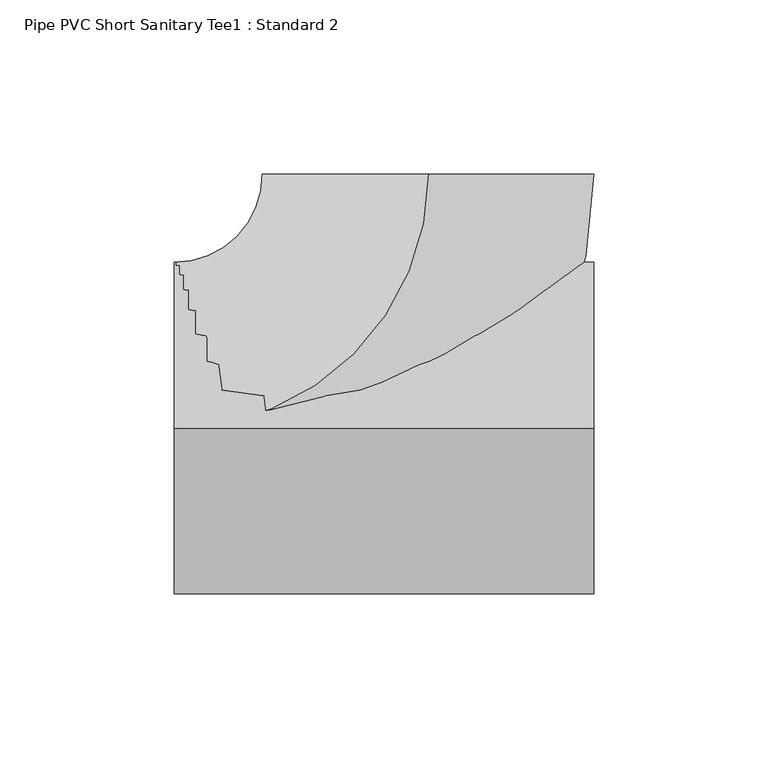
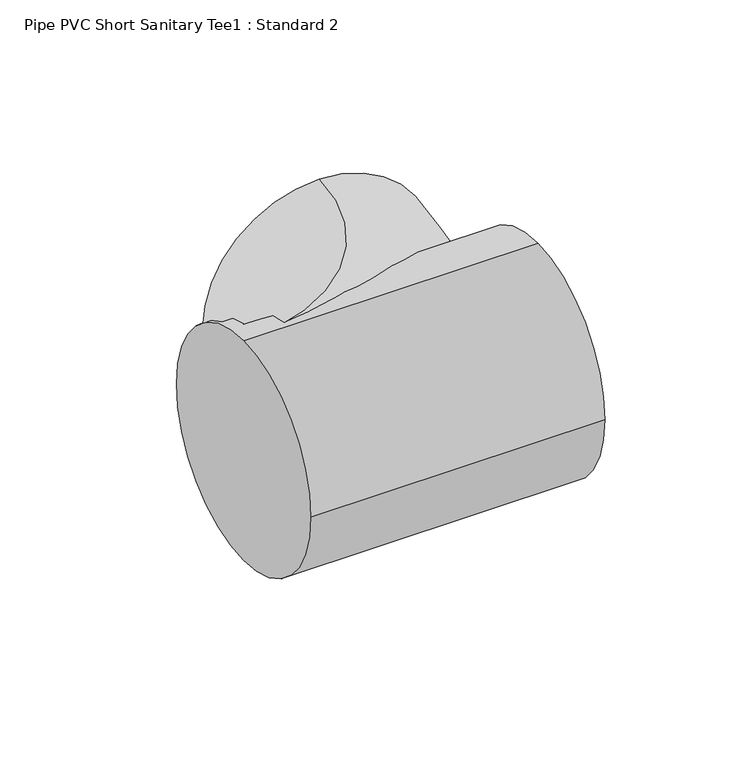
"""IFC4 building model written with IfcOpenShell, lengths in millimetres: pipe fitting geometry, Pipe PVC Short Sanitary Tee1 : Standard 2."""

import ifcopenshell
import ifcopenshell.guid

model = None  # the IFC model being written
_history = None  # IfcOwnerHistory: only IFC2X3 demands one
_inside = {}  # id of a spatial element -> (the spatial element, [elements in it])
_under = {}  # id of a project, library or spatial element -> (it, [spatial elements below it])
_declared = {}  # id of a project -> (the project, [libraries it declares])
_typed = {}  # id of a type object -> (the type object, [elements of that type])
_made_of = {}  # id of a material, layer set ... -> (it, [elements and type objects made of it])


def new_model(schema):
    """Start an empty IFC model of exactly this schema.

    Asked for "IFC4X3", IfcOpenShell would pick the latest addendum, in which some entities
    have other attributes; the version numbers below select the first issue.
    IFC2X3 requires an IfcOwnerHistory on every rooted entity: one is made here for all.
    """
    global model, _history
    if schema == "IFC4X3":
        model = ifcopenshell.file(schema_version=(4, 3, 0, 0))
    else:
        model = ifcopenshell.file(schema=schema)
    _inside.clear()
    _under.clear()
    _declared.clear()
    _typed.clear()
    _made_of.clear()
    _history = None
    if model.schema == "IFC2X3":
        org = make("IfcOrganization", Name="unknown")
        user = make(
            "IfcPersonAndOrganization",
            ThePerson=make("IfcPerson", FamilyName="unknown"),
            TheOrganization=org,
        )
        app = make(
            "IfcApplication",
            ApplicationDeveloper=org,
            Version="unknown",
            ApplicationFullName="unknown",
            ApplicationIdentifier="unknown",
        )
        _history = make(
            "IfcOwnerHistory",
            OwningUser=user,
            OwningApplication=app,
            ChangeAction="ADDED",
            CreationDate=0,
        )
    return model


def make(cls, **values):
    """One entity of the class cls with the attributes given. An attribute that is None is left unset."""
    return model.create_entity(
        cls, **{name: value for name, value in values.items() if value is not None}
    )


def rooted(cls, **values):
    """An entity with a GlobalId (a new one), such as an element, a storey or a relation."""
    return make(cls, GlobalId=ifcopenshell.guid.new(), OwnerHistory=_history, **values)


def si_unit(unit_type, name, prefix=None):
    """IfcSIUnit, for example si_unit("LENGTHUNIT", "METRE", prefix="MILLI")."""
    return make("IfcSIUnit", UnitType=unit_type, Prefix=prefix, Name=name)


def assignment(units):
    """IfcUnitAssignment: the units of a project."""
    return None if units is None else make("IfcUnitAssignment", Units=units)


def point(xyz):
    """IfcCartesianPoint."""
    return None if xyz is None else make("IfcCartesianPoint", Coordinates=xyz)


def direction(xyz):
    """IfcDirection."""
    return None if xyz is None else make("IfcDirection", DirectionRatios=xyz)


def frame(location, z_axis=None, x_axis=None):
    """IfcAxis2Placement3D, a coordinate frame: its origin and axes. An axis left out is left unset."""
    return make(
        "IfcAxis2Placement3D",
        Location=point(location),
        Axis=direction(z_axis),
        RefDirection=direction(x_axis),
    )


def frame_2d(location, x_axis=None):
    """IfcAxis2Placement2D, a coordinate frame in the plane: its origin and x axis."""
    return make(
        "IfcAxis2Placement2D", Location=point(location), RefDirection=direction(x_axis)
    )


def origin():
    """The frame at (0, 0, 0) with its axes left unset."""
    return frame((0.0, 0.0, 0.0))


def origin_2d():
    """The frame at (0, 0) in the plane with its x axis left unset."""
    return frame_2d((0.0, 0.0))


def place(relative_to, where):
    """IfcLocalPlacement: puts the frame where relative to a parent placement (None: the world)."""
    return make(
        "IfcLocalPlacement", PlacementRelTo=relative_to, RelativePlacement=where
    )


def context(
    kind, dimensions, precision=None, world=None, true_north=None, identifier=None
):
    """IfcGeometricRepresentationContext, for example the 3D "Model" context."""
    return make(
        "IfcGeometricRepresentationContext",
        ContextIdentifier=identifier,
        ContextType=kind,
        CoordinateSpaceDimension=dimensions,
        Precision=precision,
        WorldCoordinateSystem=world,
        TrueNorth=true_north,
    )


def project(units=None, contexts=None):
    """IfcProject with its units and contexts."""
    return rooted(
        "IfcProject",
        Name="project",
        RepresentationContexts=contexts,
        UnitsInContext=assignment(units),
    )


def spatial(cls, under=None, at=None, **own):
    """A site, building, storey or space (cls), placed at a placement, below another one or the project."""
    s = rooted(cls, ObjectPlacement=at, **own)
    if under is not None:
        _under.setdefault(under.id(), (under, []))[1].append(s)
    return s


def circle_curve(where, radius):
    """IfcCircle in the frame where."""
    return make("IfcCircle", Position=where, Radius=radius)


def ellipse_curve(where, semi_axis1, semi_axis2):
    """IfcEllipse in the frame where."""
    return make(
        "IfcEllipse", Position=where, SemiAxis1=semi_axis1, SemiAxis2=semi_axis2
    )


def trimmed(basis, trim1, trim2, sense, master):
    """IfcTrimmedCurve: the piece of a basis curve between two trims."""
    return make(
        "IfcTrimmedCurve",
        BasisCurve=basis,
        Trim1=trim1,
        Trim2=trim2,
        SenseAgreement=sense,
        MasterRepresentation=master,
    )


def segment(curve, same_sense, transition):
    """IfcCompositeCurveSegment."""
    return make(
        "IfcCompositeCurveSegment",
        Transition=transition,
        SameSense=same_sense,
        ParentCurve=curve,
    )


def composite_curve(segments, self_intersect=None):
    """IfcCompositeCurve: segments joined end to end."""
    return make("IfcCompositeCurve", Segments=segments, SelfIntersect=self_intersect)


def outline(outer, holes=None, kind="AREA"):
    """IfcArbitraryClosedProfileDef: a profile drawn as a closed curve; with holes, ...WithVoids."""
    if holes is None:
        return make("IfcArbitraryClosedProfileDef", ProfileType=kind, OuterCurve=outer)
    return make(
        "IfcArbitraryProfileDefWithVoids",
        ProfileType=kind,
        OuterCurve=outer,
        InnerCurves=holes,
    )


def extrude(swept, where, along, depth):
    """IfcExtrudedAreaSolid: the profile swept, set in the frame where, extruded along a direction by depth."""
    return make(
        "IfcExtrudedAreaSolid",
        SweptArea=swept,
        Position=where,
        ExtrudedDirection=direction(along),
        Depth=depth,
    )


def shape(context_of_items, identifier, shape_type, items):
    """IfcShapeRepresentation: the items that make up one representation, for example the "Body"."""
    return make(
        "IfcShapeRepresentation",
        ContextOfItems=context_of_items,
        RepresentationIdentifier=identifier,
        RepresentationType=shape_type,
        Items=items,
    )


def source(mapping_origin, context_of_items, identifier, shape_type, items):
    """IfcRepresentationMap: a shape defined once, which mapped items show again and again."""
    return make(
        "IfcRepresentationMap",
        MappingOrigin=mapping_origin,
        MappedRepresentation=shape(context_of_items, identifier, shape_type, items),
    )


def transform(
    local_origin,
    x_axis=None,
    y_axis=None,
    z_axis=None,
    scale=None,
    scale2=None,
    scale3=None,
    uniform=True,
):
    """IfcCartesianTransformationOperator3D, or its non-uniform kind. x_axis, y_axis, z_axis: its Axis1, 2, 3."""
    if uniform:
        return make(
            "IfcCartesianTransformationOperator3D",
            Axis1=direction(x_axis),
            Axis2=direction(y_axis),
            LocalOrigin=point(local_origin),
            Scale=scale,
            Axis3=direction(z_axis),
        )
    return make(
        "IfcCartesianTransformationOperator3DnonUniform",
        Axis1=direction(x_axis),
        Axis2=direction(y_axis),
        LocalOrigin=point(local_origin),
        Scale=scale,
        Axis3=direction(z_axis),
        Scale2=scale2,
        Scale3=scale3,
    )


def mapped(mapping_source, mapping_target):
    """IfcMappedItem: shows the shape of a source again, moved by a transform."""
    return make(
        "IfcMappedItem", MappingSource=mapping_source, MappingTarget=mapping_target
    )


def made_of(thing, what):
    """Note that an element or type object is made of a material, layer set ...; save() writes the relation."""
    if what is not None:
        _made_of.setdefault(what.id(), (what, []))[1].append(thing)
    return thing


def element(
    cls,
    number,
    at=None,
    inside=None,
    cuts=None,
    type_object=None,
    material=None,
    context=None,
    identifier="Body",
    shape_type=None,
    held_by="IfcProductDefinitionShape",
    body=None,
    shapes=None,
    **own,
):
    """One element of the class cls, such as IfcWall. Its Tag is "e" and its number.

    at: its placement. inside: the storey or other place that contains it. cuts: it is an
    opening in that element (IfcRelVoidsElement). A single representation is given by context,
    identifier, shape_type and body (its items); several are given by shapes. held_by: the class
    of the entity that holds the representations. save() writes the other relations.
    """
    e = rooted(cls, Tag="e%d" % number, ObjectPlacement=at, **own)
    if body is not None:
        shapes = [shape(context, identifier, shape_type, body)]
    if shapes is not None:
        e.Representation = make(held_by, Representations=shapes)
    if inside is not None:
        _inside.setdefault(inside.id(), (inside, []))[1].append(e)
    if cuts is not None:
        rooted(
            "IfcRelVoidsElement", RelatingBuildingElement=cuts, RelatedOpeningElement=e
        )
    if type_object is not None:
        _typed.setdefault(type_object.id(), (type_object, []))[1].append(e)
    return made_of(e, material)


def aggregate(whole, parts):
    """IfcRelAggregates: a whole, such as a stair, and the parts it consists of."""
    return rooted("IfcRelAggregates", RelatingObject=whole, RelatedObjects=parts)


def save(model, path):
    """Write the relations noted so far, then the file.

    IfcRelAggregates (storeys below a building ...), IfcRelContainedInSpatialStructure (elements
    in a storey), IfcRelDefinesByType, IfcRelAssociatesMaterial and IfcRelDeclares: one each for
    every whole, place, type object, material and project.
    """
    for whole, parts in _under.values():
        aggregate(whole, parts)
    for where, things in _inside.values():
        rooted(
            "IfcRelContainedInSpatialStructure",
            RelatedElements=things,
            RelatingStructure=where,
        )
    for kind, things in _typed.values():
        rooted("IfcRelDefinesByType", RelatedObjects=things, RelatingType=kind)
    for what, things in _made_of.values():
        rooted("IfcRelAssociatesMaterial", RelatedObjects=things, RelatingMaterial=what)
    for by, libraries in _declared.values():
        rooted("IfcRelDeclares", RelatingContext=by, RelatedDefinitions=libraries)
    model.write(path)


def plane_surface(at):
    """IfcPlane: the flat surface through the origin of the frame at, square to its z axis."""
    return make("IfcPlane", Position=at)


def revolved_surface(curve, axis_point, axis_direction):
    """IfcSurfaceOfRevolution: the curve turned about the line through axis_point along axis_direction."""
    return make(
        "IfcSurfaceOfRevolution",
        SweptCurve=make("IfcArbitraryOpenProfileDef", ProfileType="CURVE", Curve=curve),
        AxisPosition=make("IfcAxis1Placement", Location=point(axis_point), Axis=direction(axis_direction)),
    )


def advanced_brep(points, edges, surfaces, faces):
    """IfcAdvancedBrep: a solid bounded by faces that lie on surfaces and meet in shared edges.

    An edge is (start, end): straight between two places in points (the first is 0);
    or (start, end, curve); or (start, end, curve, False) where it runs against its curve.
    A face is (place in surfaces, loops), or (place, loops, False) where it looks against
    its surface's normal. A loop lists edges by number (the first is 1), with a minus sign
    where the edge is run from its end to its start. The first loop is the outer one.
    """
    corners = [point(p) for p in points]
    vertices = [make("IfcVertexPoint", VertexGeometry=c) for c in corners]
    made = []
    for start, end, *more in edges:
        made.append(
            make(
                "IfcEdgeCurve",
                EdgeStart=vertices[start],
                EdgeEnd=vertices[end],
                EdgeGeometry=more[0] if more else make("IfcPolyline", Points=[corners[start], corners[end]]),
                SameSense=more[1] if len(more) > 1 else True,
            )
        )
    hull = []
    for where, loops, *sense in faces:
        bounds = []
        for j, loop in enumerate(loops):
            ring = [make("IfcOrientedEdge", EdgeElement=made[abs(k) - 1], Orientation=k > 0) for k in loop]
            bounds.append(
                make(
                    "IfcFaceOuterBound" if j == 0 else "IfcFaceBound",
                    Bound=make("IfcEdgeLoop", EdgeList=ring),
                    Orientation=True,
                )
            )
        hull.append(make("IfcAdvancedFace", Bounds=bounds, FaceSurface=surfaces[where], SameSense=sense[0] if sense else True))
    return make("IfcAdvancedBrep", Outer=make("IfcClosedShell", CfsFaces=hull))


def pipe_pvc_short_sanitary_tee1_standard_2_93607447(model_context):
    return source(origin(), model_context, "Body", "SolidModel", [
        extrude(outline(composite_curve([segment(trimmed(circle_curve(origin_2d(), 47.625), [point((0.0, 47.625))], [point((47.625, 0.0))], False, "CARTESIAN"), True, "CONTINUOUS"), segment(trimmed(circle_curve(origin_2d(), 47.625), [point((47.625, 0.0))], [point((0.0, -47.625))], False, "CARTESIAN"), True, "CONTINUOUS"), segment(trimmed(circle_curve(origin_2d(), 47.625), [point((0.0, -47.625))], [point((-47.625, 0.0))], False, "CARTESIAN"), True, "CONTINUOUS"), segment(trimmed(circle_curve(origin_2d(), 47.625), [point((-47.625, 0.0))], [point((0.0, 47.625))], False, "CARTESIAN"), True, "CONTINUOUS")], self_intersect=False)), frame((-73.0092305, 0.0, 0.0), z_axis=(1.0, 0.0, 0.0), x_axis=(0.0, 1.0, 0.0)), (0.0, 0.0, 1.0), 120.6499983),
        advanced_brep(
        [(-73.0092305, 0.0, 47.625), (-73.0092305, 47.625, 0.0), (-73.0092305, 0.0, -47.625), (-73.0092305, -47.625, 0.0), (0.0157678, 73.0092288, 47.625), (47.6407667, 72.9989433, 0.0), (0.0157678, 73.0092288, -47.625), (-47.6092311, 73.0195144, 0.0)],
        [
            (0, 1, circle_curve(frame((-73.0092305, 0.0, 0.0), z_axis=(-1.0, 0.0, 0.0), x_axis=(0.0, 1.0, 0.0)), 47.625)),
            (1, 2, circle_curve(frame((-73.0092305, 0.0, 0.0), z_axis=(-1.0, 0.0, 0.0), x_axis=(0.0, 1.0, 0.0)), 47.625)),
            (2, 3, circle_curve(frame((-73.0092305, 0.0, 0.0), z_axis=(-1.0, 0.0, 0.0), x_axis=(0.0, 1.0, 0.0)), 47.625)),
            (3, 0, circle_curve(frame((-73.0092305, 0.0, 0.0), z_axis=(-1.0, 0.0, 0.0), x_axis=(0.0, 1.0, 0.0)), 47.625)),
            (4, 5, circle_curve(frame((0.0157678, 73.0092288, 0.0), z_axis=(0.00021596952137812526, 0.9999999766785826, 0.0), x_axis=(-0.9999999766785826, 0.00021596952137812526, 0.0)), 47.625)),
            (5, 6, circle_curve(frame((0.0157678, 73.0092288, 0.0), z_axis=(0.00021596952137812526, 0.9999999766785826, 0.0), x_axis=(-0.9999999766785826, 0.00021596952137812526, 0.0)), 47.625)),
            (6, 7, circle_curve(frame((0.0157678, 73.0092288, 0.0), z_axis=(0.00021596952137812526, 0.9999999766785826, 0.0), x_axis=(-0.9999999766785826, 0.00021596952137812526, 0.0)), 47.625)),
            (7, 4, circle_curve(frame((0.0157678, 73.0092288, 0.0), z_axis=(0.00021596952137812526, 0.9999999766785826, 0.0), x_axis=(-0.9999999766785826, 0.00021596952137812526, 0.0)), 47.625)),
            (7, 1, circle_curve(frame((-73.0092305, 73.025, 0.0), z_axis=(0.0, 0.0, -1.0), x_axis=(0.0, -1.0, 0.0)), 25.4)),
            (0, 4, circle_curve(frame((-73.0092305, 73.025, 47.625), z_axis=(0.0, 0.0, 1.0), x_axis=(0.0, -1.0, 0.0)), 73.025)),
            (6, 2, circle_curve(frame((-73.0092305, 73.025, -47.625), z_axis=(0.0, 0.0, -1.0), x_axis=(0.0, -1.0, 0.0)), 73.025)),
            (5, 3, circle_curve(frame((-73.0092305, 73.025, 0.0), z_axis=(0.0, 0.0, -1.0), x_axis=(0.0, -1.0, 0.0)), 120.65)),
        ],
        [
            plane_surface(frame((-73.0092305, 0.0, 0.0), z_axis=(-1.0, 0.0, 0.0), x_axis=(0.0, 0.0, 1.0))),
            plane_surface(frame((0.0157678, 73.0092288, 0.0), z_axis=(0.00021596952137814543, 0.9999999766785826, 0.0), x_axis=(0.0, 0.0, 1.0))),
            revolved_surface(trimmed(ellipse_curve(frame((-73.0092305, 0.0, 0.0), z_axis=(-1.0, 0.0, 0.0), x_axis=(0.0, 1.0, 0.0)), 47.625, 47.625), [point((-73.0092305, 0.0, 47.625))], [point((-73.0092305, 47.625, 0.0))], True, "CARTESIAN"), (-73.0092305, 73.025, 0.0), (0.0, 0.0, 1.0)),
            revolved_surface(trimmed(ellipse_curve(frame((-73.0092305, 0.0, 0.0), z_axis=(-1.0, 0.0, 0.0), x_axis=(0.0, 1.0, 0.0)), 47.625, 47.625), [point((-73.0092305, 47.625, 0.0))], [point((-73.0092305, 0.0, -47.625))], True, "CARTESIAN"), (-73.0092305, 73.025, 0.0), (0.0, 0.0, 1.0)),
            revolved_surface(trimmed(ellipse_curve(frame((-73.0092305, 0.0, 0.0), z_axis=(-1.0, 0.0, 0.0), x_axis=(0.0, 1.0, 0.0)), 47.625, 47.625), [point((-73.0092305, 0.0, -47.625))], [point((-73.0092305, -47.625, 0.0))], True, "CARTESIAN"), (-73.0092305, 73.025, 0.0), (0.0, 0.0, 1.0)),
            revolved_surface(trimmed(ellipse_curve(frame((-73.0092305, 0.0, 0.0), z_axis=(-1.0, 0.0, 0.0), x_axis=(0.0, 1.0, 0.0)), 47.625, 47.625), [point((-73.0092305, -47.625, 0.0))], [point((-73.0092305, 0.0, 47.625))], True, "CARTESIAN"), (-73.0092305, 73.025, 0.0), (0.0, 0.0, 1.0)),
        ],
        [
            (0, [[1, 2, 3, 4]]),
            (1, [[5, 6, 7, 8]]),
            (2, [[9, -1, 10, -8]]),
            (3, [[11, -2, -9, -7]]),
            (4, [[12, -3, -11, -6]]),
            (5, [[-10, -4, -12, -5]]),
        ],
    ),
        advanced_brep(
        [(-73.0092305, 0.0, 47.625), (-73.0092305, 47.625, 0.0), (-73.0092305, 0.0, -47.625), (-73.0092305, -47.625, 0.0), (0.0157678, 73.0092288, 47.625), (47.6407667, 72.9989433, 0.0), (0.0157678, 73.0092288, -47.625), (-47.6092311, 73.0195144, 0.0)],
        [
            (0, 1, circle_curve(frame((-73.0092305, 0.0, 0.0), z_axis=(-1.0, 0.0, 0.0), x_axis=(0.0, 1.0, 0.0)), 47.625)),
            (1, 2, circle_curve(frame((-73.0092305, 0.0, 0.0), z_axis=(-1.0, 0.0, 0.0), x_axis=(0.0, 1.0, 0.0)), 47.625)),
            (2, 3, circle_curve(frame((-73.0092305, 0.0, 0.0), z_axis=(-1.0, 0.0, 0.0), x_axis=(0.0, 1.0, 0.0)), 47.625)),
            (3, 0, circle_curve(frame((-73.0092305, 0.0, 0.0), z_axis=(-1.0, 0.0, 0.0), x_axis=(0.0, 1.0, 0.0)), 47.625)),
            (4, 5, circle_curve(frame((0.0157678, 73.0092288, 0.0), z_axis=(0.00021596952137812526, 0.9999999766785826, 0.0), x_axis=(-0.9999999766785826, 0.00021596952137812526, 0.0)), 47.625)),
            (5, 6, circle_curve(frame((0.0157678, 73.0092288, 0.0), z_axis=(0.00021596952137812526, 0.9999999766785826, 0.0), x_axis=(-0.9999999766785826, 0.00021596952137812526, 0.0)), 47.625)),
            (6, 7, circle_curve(frame((0.0157678, 73.0092288, 0.0), z_axis=(0.00021596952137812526, 0.9999999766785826, 0.0), x_axis=(-0.9999999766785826, 0.00021596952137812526, 0.0)), 47.625)),
            (7, 4, circle_curve(frame((0.0157678, 73.0092288, 0.0), z_axis=(0.00021596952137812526, 0.9999999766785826, 0.0), x_axis=(-0.9999999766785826, 0.00021596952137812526, 0.0)), 47.625)),
            (7, 1, circle_curve(frame((-73.0092305, 73.025, 0.0), z_axis=(0.0, 0.0, -1.0), x_axis=(0.0, -1.0, 0.0)), 25.4)),
            (0, 4, circle_curve(frame((-73.0092305, 73.025, 47.625), z_axis=(0.0, 0.0, 1.0), x_axis=(0.0, -1.0, 0.0)), 73.025)),
            (6, 2, circle_curve(frame((-73.0092305, 73.025, -47.625), z_axis=(0.0, 0.0, -1.0), x_axis=(0.0, -1.0, 0.0)), 73.025)),
            (5, 3, circle_curve(frame((-73.0092305, 73.025, 0.0), z_axis=(0.0, 0.0, -1.0), x_axis=(0.0, -1.0, 0.0)), 120.65)),
        ],
        [
            plane_surface(frame((-73.0092305, 0.0, 0.0), z_axis=(-1.0, 0.0, 0.0), x_axis=(0.0, 0.0, 1.0))),
            plane_surface(frame((0.0157678, 73.0092288, 0.0), z_axis=(0.00021596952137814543, 0.9999999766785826, 0.0), x_axis=(0.0, 0.0, 1.0))),
            revolved_surface(trimmed(ellipse_curve(frame((-73.0092305, 0.0, 0.0), z_axis=(-1.0, 0.0, 0.0), x_axis=(0.0, 1.0, 0.0)), 47.625, 47.625), [point((-73.0092305, 0.0, 47.625))], [point((-73.0092305, 47.625, 0.0))], True, "CARTESIAN"), (-73.0092305, 73.025, 0.0), (0.0, 0.0, 1.0)),
            revolved_surface(trimmed(ellipse_curve(frame((-73.0092305, 0.0, 0.0), z_axis=(-1.0, 0.0, 0.0), x_axis=(0.0, 1.0, 0.0)), 47.625, 47.625), [point((-73.0092305, 47.625, 0.0))], [point((-73.0092305, 0.0, -47.625))], True, "CARTESIAN"), (-73.0092305, 73.025, 0.0), (0.0, 0.0, 1.0)),
            revolved_surface(trimmed(ellipse_curve(frame((-73.0092305, 0.0, 0.0), z_axis=(-1.0, 0.0, 0.0), x_axis=(0.0, 1.0, 0.0)), 47.625, 47.625), [point((-73.0092305, 0.0, -47.625))], [point((-73.0092305, -47.625, 0.0))], True, "CARTESIAN"), (-73.0092305, 73.025, 0.0), (0.0, 0.0, 1.0)),
            revolved_surface(trimmed(ellipse_curve(frame((-73.0092305, 0.0, 0.0), z_axis=(-1.0, 0.0, 0.0), x_axis=(0.0, 1.0, 0.0)), 47.625, 47.625), [point((-73.0092305, -47.625, 0.0))], [point((-73.0092305, 0.0, 47.625))], True, "CARTESIAN"), (-73.0092305, 73.025, 0.0), (0.0, 0.0, 1.0)),
        ],
        [
            (0, [[1, 2, 3, 4]]),
            (1, [[5, 6, 7, 8]]),
            (2, [[9, -1, 10, -8]]),
            (3, [[11, -2, -9, -7]]),
            (4, [[12, -3, -11, -6]]),
            (5, [[-10, -4, -12, -5]]),
        ],
    ),
        extrude(outline(composite_curve([segment(trimmed(circle_curve(origin_2d(), 47.625), [point((0.0, 47.625))], [point((47.625, 0.0))], False, "CARTESIAN"), True, "CONTINUOUS"), segment(trimmed(circle_curve(origin_2d(), 47.625), [point((47.625, 0.0))], [point((0.0, -47.625))], False, "CARTESIAN"), True, "CONTINUOUS"), segment(trimmed(circle_curve(origin_2d(), 47.625), [point((0.0, -47.625))], [point((-47.625, 0.0))], False, "CARTESIAN"), True, "CONTINUOUS"), segment(trimmed(circle_curve(origin_2d(), 47.625), [point((-47.625, 0.0))], [point((0.0, 47.625))], False, "CARTESIAN"), True, "CONTINUOUS")], self_intersect=False)), frame((-73.0092305, 0.0, 0.0), z_axis=(1.0, 0.0, 0.0), x_axis=(0.0, 1.0, 0.0)), (0.0, 0.0, 1.0), 120.6499983),
    ])


if __name__ == "__main__":
    model = new_model("IFC4")
    model_context = context("Model", 3, world=origin())
    ifc_project = project(units=[si_unit("LENGTHUNIT", "METRE", prefix="MILLI")], contexts=[model_context])
    site = spatial("IfcSite", under=ifc_project)
    building = spatial("IfcBuilding", under=site)
    placement = place(None, origin())
    pipe_pvc_short_sanitary_tee1_standard_2_shape = pipe_pvc_short_sanitary_tee1_standard_2_93607447(model_context)
    element("IfcPipeFitting", 1, ObjectType="Pipe PVC Short Sanitary Tee1 : Standard 2", at=placement, inside=building, context=model_context, shape_type="MappedRepresentation", body=[
        mapped(pipe_pvc_short_sanitary_tee1_standard_2_shape, transform((0.0, 0.0, 0.0), x_axis=(1.0, 0.0, 0.0), y_axis=(0.0, 1.0, 0.0), z_axis=(0.0, 0.0, 1.0))),
    ])
    save(model, "model.ifc")
